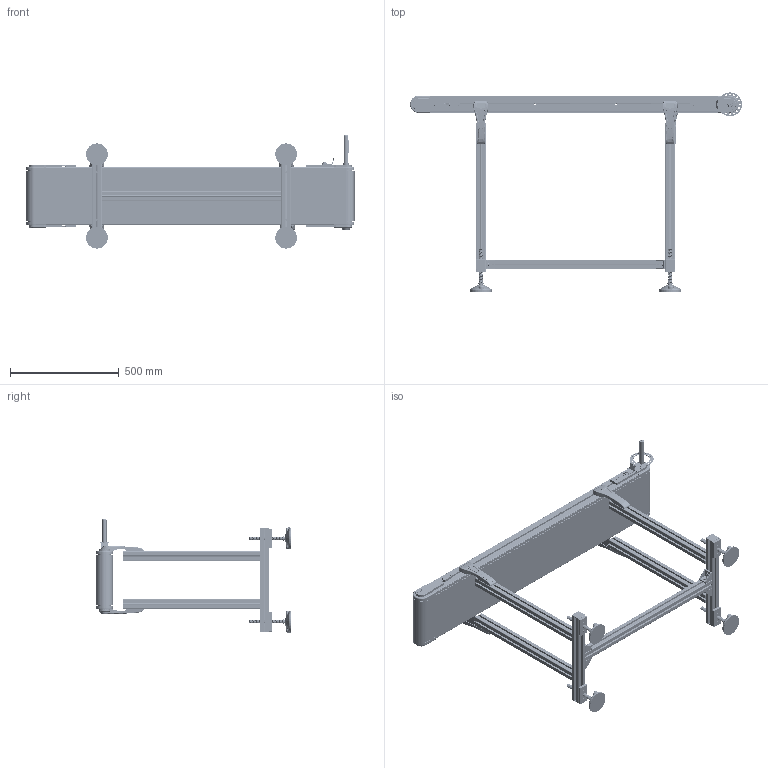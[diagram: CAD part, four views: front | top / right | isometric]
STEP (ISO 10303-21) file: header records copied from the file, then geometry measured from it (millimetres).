
FILE_DESCRIPTION (( 'STEP AP203' ), '1' );
FILE_NAME ('NASTRO_3020.step', '2026-05-06T12:39:42', ( 'Utente Windows' ), ( '' ), 'SwSTEP 2.0', 'SolidWorks 2024', '' );
FILE_SCHEMA (( 'CONFIG_CONTROL_DESIGN' ));
Length unit declared in the file: millimetre
Products named in the file (43): 084.301.000 VITI ALUSIC1_084.301.003; 3020.009.002; 3020.009.003; 3020.000.007; 084.302.000 DADI ALUSIC 13x13-1_084.302.004; 3020.000.005; 084.807.014_084.807.002; RONDELLE FASCIA LARGA UNI 6593_8.4x24 UNI 6593; CATENA_3020_DIRITTO; CHIAVETTE_A 5x5x30 UNI 6604-69; 2010.000.069; VITI TE UNI 5739_M8x16 UNI 5739; ANGOLARE_43; 3020.009.WA30_DX; 084.802.062; FLANGIA_GAMBA; 084.802.077_chiuso; 084.802.076_chiuso; 084.302.000 DADI ALUSIC 13x13_084.302.004; RONDELLE UNI 6592_8.4x17 UNI 6592; 084.302.000 DADI ALUSIC 13x13-1_084.302.009; 084.802.008; 084.802.017_084.802.017; 084.808.013; NASTRO_3020; PIEDE; TELAIO_3020_9_1_Default<A macchina>; 084.301.000 VITI ALUSIC_084.301.003; 084.305.003-1; VITI TSEI UNI 5933 INOX_0410UNI5933A2; 3020.009.200; 084.201.012-1; CHIAVETTE_A 6x6x60 UNI 6604-69; 084.405.001; TRAVERSA_SINGOLA_Default<A macchina>; 2010.000.070; 084.802.078_chiuso con cono; 084.307.006; 084.402.005; GAMBE_3020_Default<A macchina>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
Assembly tree (107 placements, depth 4):
  NASTRO_3020
    CATENA_3020_DIRITTO
    3020.009.WA30_DX
      084.807.003_084.807.003<A macchina>  x2
      084.802.017_084.802.017  x2
      084.301.000 VITI ALUSIC_084.301.003  x4
      084.302.000 DADI ALUSIC 13x13_084.302.004  x4
      3020.009.003
      VITI TSEI UNI 5933 INOX_0410UNI5933A2  x4
      CHIAVETTE_A 5x5x30 UNI 6604-69  x3
      3020.000.005  x3
      084.802.077_chiuso
      084.802.078_chiuso con cono
      084.808.013
      VITI TE UNI 5739_M8x16 UNI 5739
      RONDELLE FASCIA LARGA UNI 6593_8.4x24 UNI 6593
      084.802.062
      CHIAVETTE_A 6x6x60 UNI 6604-69
    3020.009.200
      084.802.008  x2
      084.301.000 VITI ALUSIC_084.301.003  x6
      084.302.000 DADI ALUSIC 13x13_084.302.004  x6
      3020.000.007
      3020.009.002
      084.807.014_084.807.002  x2
      084.802.076_chiuso  x2
      VITI TSEI UNI 5933 INOX_0410UNI5933A2  x4
    084.307.006
    TELAIO_3020_9_1_Default<A macchina>
    GAMBE_3020_Default<A macchina>  x2
    FLANGIA_GAMBA  x4
      084.302.000 DADI ALUSIC 13x13-1_084.302.004
      RONDELLE UNI 6592_8.4x17 UNI 6592
      084.301.000 VITI ALUSIC_084.301.003
      2010.000.068
        2010.000.068_L
        2010.000.069
        2010.000.070
    PIEDE  x4
      084.405.001
      084.402.005
      084.301.000 VITI ALUSIC1_084.301.003
    084.201.012-1  x8
    ANGOLARE_43  x4
      084.305.003-1
      084.302.000 DADI ALUSIC 13x13-1_084.302.009
      084.301.000 VITI ALUSIC_084.301.003
    TRAVERSA_SINGOLA_Default<A macchina>
Bounding box: 1528.49 x 915.94 x 520.94 mm (x, y, z)
Volume: 15762249.6 mm3; surface area: 6378820 mm2
Topology: 200 solids, 202 shells, 10879 faces, 28624 edges, 18333 vertices
Faces by surface type: plane 4323, cylinder 3671, bspline 1110, cone 1079, torus 632, sphere 64
Entity records: 157878 total; most frequent: CARTESIAN_POINT 57518, ORIENTED_EDGE 20776, DIRECTION 18547, EDGE_CURVE 10388, VERTEX_POINT 6699, AXIS2_PLACEMENT_3D 6475, LINE 5597, VECTOR 5597
